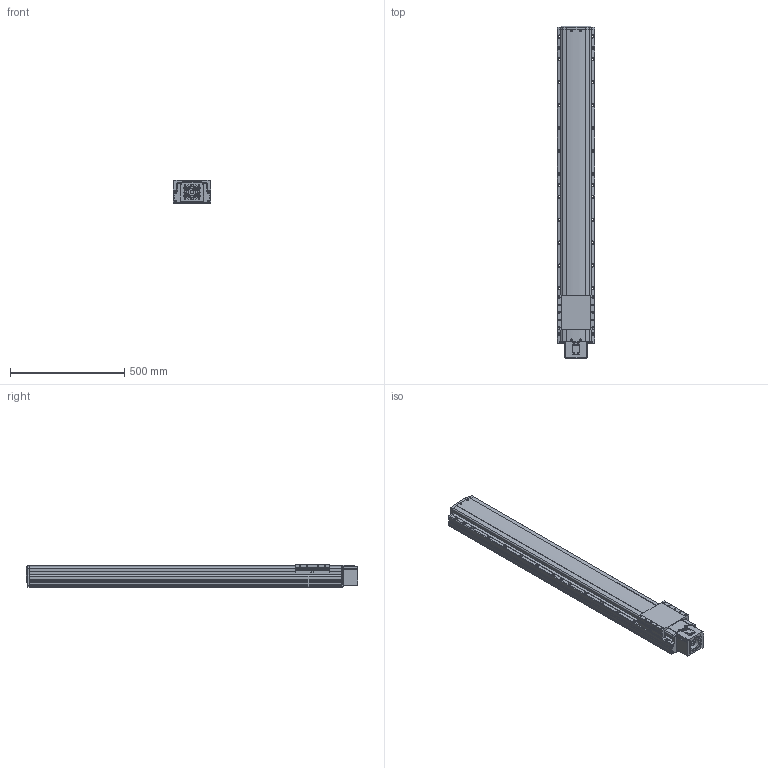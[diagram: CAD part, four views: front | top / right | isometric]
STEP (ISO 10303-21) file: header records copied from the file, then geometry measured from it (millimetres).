
FILE_DESCRIPTION(('STEP AP214'),'1');
FILE_NAME('Z:/Web/3D/PSA165/STP/PSA165-1100 (3D)/PSA165ㅁㅁ-1100S.stp','2014-06-24T10:23:49',(' '),(' '),'Spatial InterOp 3D',' ',' ');
FILE_SCHEMA(('automotive_design'));
Length unit declared in the file: millimetre
Products named in the file (67): 스크루 : Round - M4.0 x 12.0; RRCV-PA160; BASE; 스크루 : Round - M4.0 x 10.0; RN15; Screw 20; SLIDE; FRCV; 스크루 : Socket - M6.0 x 25.0; MTHZ-SAN150-80A; SSFX-SAN65; CPLCV-SAN65; 스크루 : Round - M3.0 x 6.0; SDWA47C(2); SDWA47C(3-1); SDWA47C(3); SDWA47C(1); SDWA47C(4); SDWA47C(5)
Bounding box: 165 x 1449.8 x 104 mm (x, y, z)
Volume: 19410229 mm3; surface area: 1251293.9 mm2
Topology: 67 solids, 67 shells, 3100 faces, 8279 edges, 5313 vertices
Faces by surface type: plane 1404, cylinder 1210, cone 377, sphere 50, bspline 35, torus 24
Entity records: 127479 total; most frequent: CARTESIAN_POINT 22545, DIRECTION 17191, ORIENTED_EDGE 16214, EDGE_CURVE 8107, AXIS2_PLACEMENT_3D 6249, VERTEX_POINT 5313, LINE 4693, VECTOR 4693
